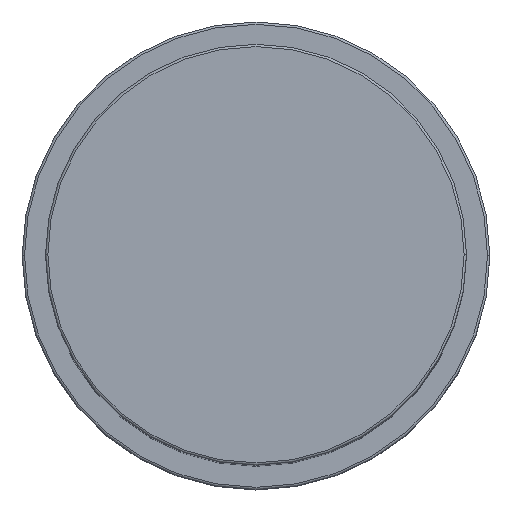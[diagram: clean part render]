
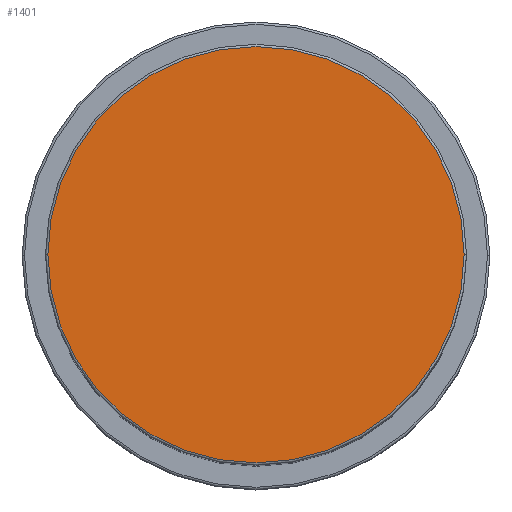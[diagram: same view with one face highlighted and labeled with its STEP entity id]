
A CAD part, top view. The second image highlights one B-rep face of the part: STEP entity #1401.
In plain terms, the highlighted planar face has unit normal (0, 0, 1).
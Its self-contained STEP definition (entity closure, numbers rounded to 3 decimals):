
#14 = CIRCLE ( 'NONE', #765, 44.5 ) ;
#96 = ORIENTED_EDGE ( 'NONE', *, *, #1722, .T. ) ;
#159 = CARTESIAN_POINT ( 'NONE',  ( 0., 0., 154. ) ) ;
#181 = CARTESIAN_POINT ( 'NONE',  ( 0., 0., 154. ) ) ;
#236 = AXIS2_PLACEMENT_3D ( 'NONE', #181, #795, #620 ) ;
#320 = DIRECTION ( 'NONE',  ( 1., 0., 0. ) ) ;
#338 = VERTEX_POINT ( 'NONE', #1968 ) ;
#431 = CIRCLE ( 'NONE', #236, 44.5 ) ;
#471 = ORIENTED_EDGE ( 'NONE', *, *, #794, .T. ) ;
#491 = CARTESIAN_POINT ( 'NONE',  ( 0., 0., 154. ) ) ;
#620 = DIRECTION ( 'NONE',  ( 1., 0., 0. ) ) ;
#765 = AXIS2_PLACEMENT_3D ( 'NONE', #491, #1288, #320 ) ;
#771 = EDGE_LOOP ( 'NONE', ( #471, #96 ) ) ;
#794 = EDGE_CURVE ( 'NONE', #1736, #338, #431, .T. ) ;
#795 = DIRECTION ( 'NONE',  ( 0., 0., 1. ) ) ;
#818 = PLANE ( 'NONE',  #1575 ) ;
#825 = DIRECTION ( 'NONE',  ( 0., 0., 1. ) ) ;
#834 = DIRECTION ( 'NONE',  ( 1., 0., 0. ) ) ;
#1288 = DIRECTION ( 'NONE',  ( 0., 0., 1. ) ) ;
#1401 = ADVANCED_FACE ( 'NONE', ( #1901 ), #818, .T. ) ;
#1575 = AXIS2_PLACEMENT_3D ( 'NONE', #159, #825, #834 ) ;
#1722 = EDGE_CURVE ( 'NONE', #338, #1736, #14, .T. ) ;
#1736 = VERTEX_POINT ( 'NONE', #1911 ) ;
#1901 = FACE_OUTER_BOUND ( 'NONE', #771, .T. ) ;
#1911 = CARTESIAN_POINT ( 'NONE',  ( 44.5, 0., 154. ) ) ;
#1968 = CARTESIAN_POINT ( 'NONE',  ( -44.5, 0., 154. ) ) ;
